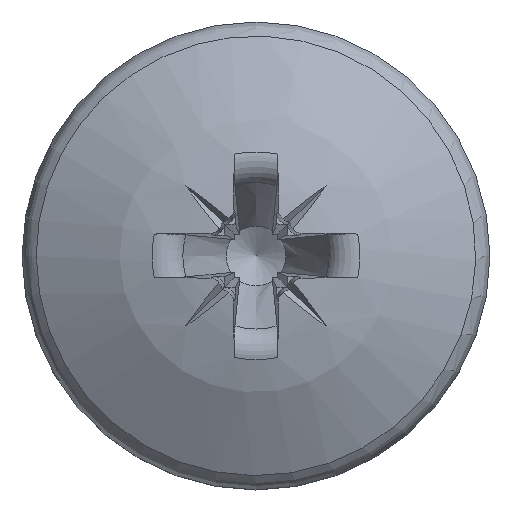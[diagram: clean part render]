
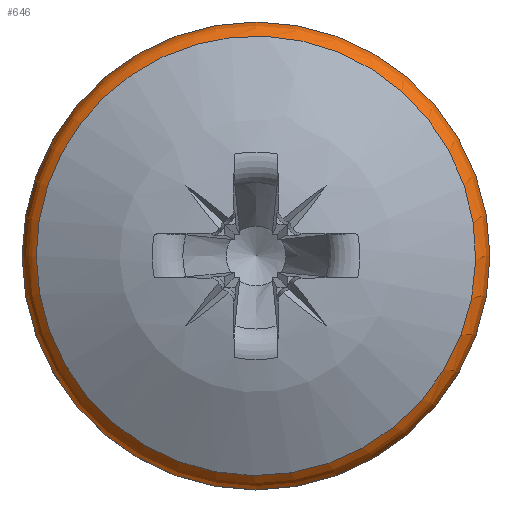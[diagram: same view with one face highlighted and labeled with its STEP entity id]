
A CAD part, top view. The second image highlights one B-rep face of the part: STEP entity #646.
In plain terms, the highlighted toroidal (fillet/blend) face has major radius 4.55 mm and minor radius 0.7 mm.
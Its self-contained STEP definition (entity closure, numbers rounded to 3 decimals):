
#552=TOROIDAL_SURFACE('',#3013,4.55,0.7);
#568=FACE_BOUND('',#1024,.T.);
#569=FACE_BOUND('',#1025,.T.);
#646=ADVANCED_FACE('',(#568,#569),#552,.T.);
#1024=EDGE_LOOP('',(#1559));
#1025=EDGE_LOOP('',(#1560));
#1148=CIRCLE('',#2898,4.932);
#1173=CIRCLE('',#2928,5.25);
#1559=ORIENTED_EDGE('',*,*,#2376,.F.);
#1560=ORIENTED_EDGE('',*,*,#2335,.F.);
#2087=VERTEX_POINT('',#6076);
#2126=VERTEX_POINT('',#6335);
#2335=EDGE_CURVE('',#2087,#2087,#1148,.T.);
#2376=EDGE_CURVE('',#2126,#2126,#1173,.T.);
#2898=AXIS2_PLACEMENT_3D('',#6075,#3031,#3032);
#2928=AXIS2_PLACEMENT_3D('',#6334,#3092,#3093);
#3013=AXIS2_PLACEMENT_3D('',#6766,#3322,#3323);
#3031=DIRECTION('',(0.,0.,1.));
#3032=DIRECTION('',(-1.,0.,0.));
#3092=DIRECTION('',(0.,0.,-1.));
#3093=DIRECTION('',(-1.,0.,0.));
#3322=DIRECTION('',(0.,0.,-1.));
#3323=DIRECTION('',(-1.,0.,0.));
#6075=CARTESIAN_POINT('',(0.,0.,2.737));
#6076=CARTESIAN_POINT('',(-4.932,0.,2.737));
#6334=CARTESIAN_POINT('',(0.,0.,2.15));
#6335=CARTESIAN_POINT('',(-5.25,0.,2.15));
#6766=CARTESIAN_POINT('',(0.,0.,2.15));
